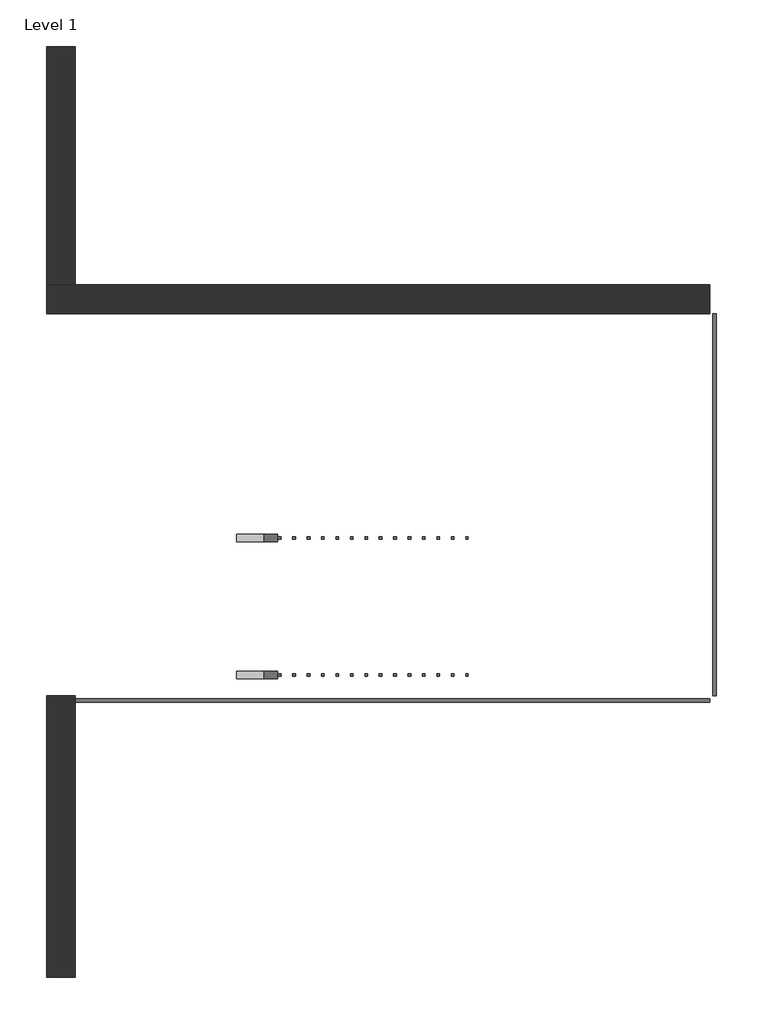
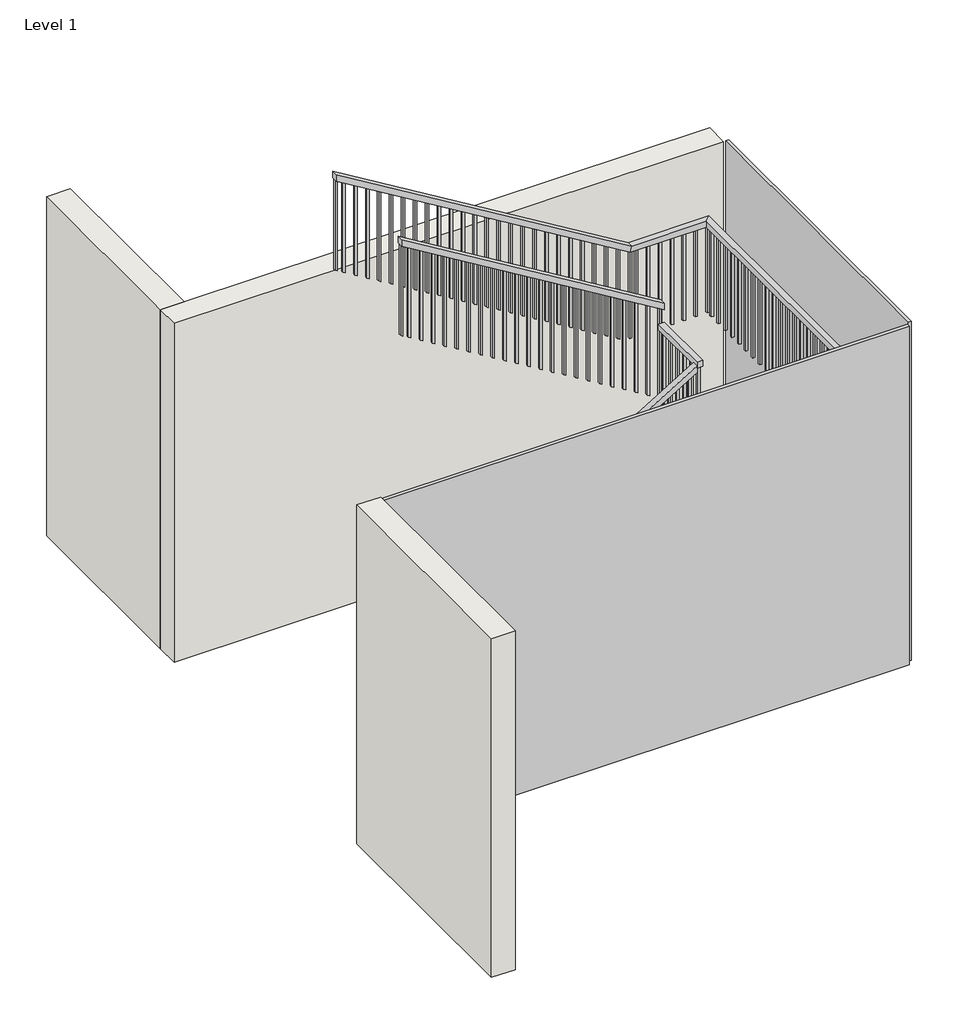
# One storey: 3 walls, 2 plates, 2 railings.
"""IFC4 building model written with IfcOpenShell, lengths in millimetres."""

from ifc_helpers import new_model, si_unit, origin, origin_with_axes, place, context, project, spatial, polyline, outline, extrude, faceted_brep, transform, mapped, element, save
from components import system_panel_glazed_77ba1f36, system_panel_glazed_8894ad6a, handrail_rectangular_2bf28051, handrail_rectangular_d4d9ffba

model = new_model("IFC4")

# Units and contexts
model_context = context("Model", 3, world=origin())
ifc_project = project(units=[si_unit("LENGTHUNIT", "METRE", prefix="MILLI")], contexts=[model_context])

# Site, building, storey
site = spatial("IfcSite", under=ifc_project)
building = spatial("IfcBuilding", under=site)
storey = spatial("IfcBuildingStorey", under=building, Name="Level 1", Elevation=0.0)

# Plates
placement = place(None, origin())
system_panel_glazed_shape = system_panel_glazed_77ba1f36(model_context)
element("IfcPlate", 1, ObjectType="System Panel : Glazed", at=placement, inside=storey, context=model_context, shape_type="MappedRepresentation", body=[
    mapped(system_panel_glazed_shape, transform((-2555.4972322, 1291.3543518, 0.0), x_axis=(-1.0, 0.0, 0.0), y_axis=(0.0, -1.0, 0.0), z_axis=(0.0, 0.0, 1.0))),
])
system_panel_glazed_2_shape = system_panel_glazed_8894ad6a(model_context)
element("IfcPlate", 2, ObjectType="System Panel : Glazed", at=placement, inside=storey, context=model_context, shape_type="MappedRepresentation", body=[
    mapped(system_panel_glazed_2_shape, transform((-320.2972322, 2637.5543518, 0.0), x_axis=(0.0, -1.0, 0.0), y_axis=(1.0, 0.0, 0.0), z_axis=(0.0, 0.0, 1.0))),
])

# Railings
handrail_rectangular_shape = handrail_rectangular_2bf28051(model_context)
element("IfcRailing", 3, ObjectType="Handrail - Rectangular", at=placement, inside=storey, context=model_context, shape_type="MappedRepresentation", body=[
    mapped(handrail_rectangular_shape, transform((0.0, 0.0, 0.0), x_axis=(1.0, 0.0, 0.0), y_axis=(0.0, 1.0, 0.0), z_axis=(0.0, 0.0, 1.0))),
])
handrail_rectangular_2_shape = handrail_rectangular_d4d9ffba(model_context)
element("IfcRailing", 4, ObjectType="Handrail - Rectangular", at=placement, inside=storey, context=model_context, shape_type="MappedRepresentation", body=[
    mapped(handrail_rectangular_2_shape, transform((0.0, 0.0, 0.0), x_axis=(1.0, 0.0, 0.0), y_axis=(0.0, 1.0, 0.0), z_axis=(0.0, 0.0, 1.0))),
])

# Walls
element("IfcWall", 5, ObjectType="Generic - 8\"", at=placement, inside=storey, context=model_context, shape_type="Brep", body=[
    faceted_brep([(-4993.8972322, 3983.7543518, 0.0), (-320.2972322, 3983.7543518, 0.0), (-320.2972322, 3983.7543518, 3048.0), (-4993.8972322, 3983.7543518, 3048.0), (-4993.8972322, 4186.9543518, 0.0), (-4993.8972322, 4186.9543518, 3048.0), (-4790.6972322, 4186.9543518, 3048.0), (-320.2972322, 4186.9543518, 3048.0), (-320.2972322, 4186.9543518, 0.0), (-4790.6972322, 4186.9543518, 0.0)], [[[0, 1, 2, 3]], [[4, 5, 6, 7, 8, 9]], [[1, 0, 4, 9, 8]], [[2, 1, 8, 7]], [[3, 2, 7, 6, 5]], [[0, 3, 5, 4]]]),
])
element("IfcWall", 6, ObjectType="Generic - 8\"", at=placement, inside=storey, context=model_context, shape_type="SweptSolid", body=[
    extrude(outline(polyline([(-4993.8972322, -689.8456482), (-4993.8972322, 1291.3543518), (-4790.6972322, 1291.3543518), (-4790.6972322, -689.8456482), (-4993.8972322, -689.8456482)])), origin_with_axes(), (0.0, 0.0, 1.0), 3048.0),
])
element("IfcWall", 7, ObjectType="Generic - 8\"", at=placement, inside=storey, context=model_context, shape_type="SweptSolid", body=[
    extrude(outline(polyline([(-4790.6972322, 5863.3543518), (-4790.6972322, 4186.9543518), (-4993.8972322, 4186.9543518), (-4993.8972322, 5863.3543518), (-4790.6972322, 5863.3543518)])), origin_with_axes(), (0.0, 0.0, 1.0), 3048.0),
])

save(model, "model.ifc")
